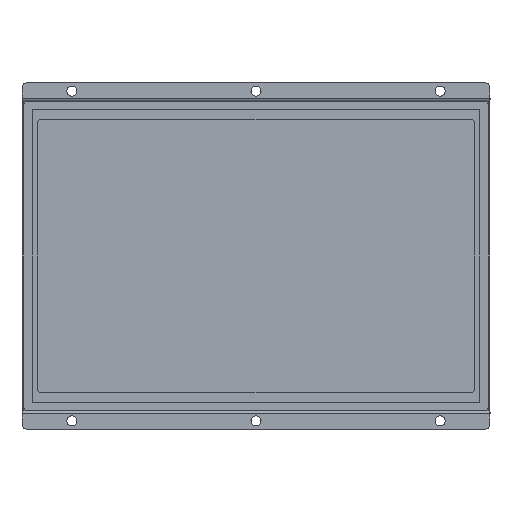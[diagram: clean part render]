
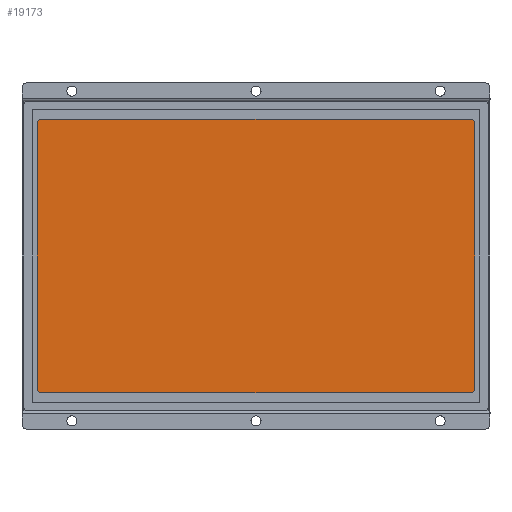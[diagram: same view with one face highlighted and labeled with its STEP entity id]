
A CAD part, front view. The second image highlights one B-rep face of the part: STEP entity #19173.
In plain terms, the highlighted planar face has unit normal (0, -1, 0).
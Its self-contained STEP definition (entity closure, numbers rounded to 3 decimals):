
#734=PLANE('',#20311);
#1480=FACE_OUTER_BOUND('',#2568,.T.);
#2568=EDGE_LOOP('',(#13077,#13078,#13079,#13080,#13081,#13082,#13083,#13084));
#3821=LINE('',#27412,#5735);
#3822=LINE('',#27416,#5736);
#3823=LINE('',#27420,#5737);
#3824=LINE('',#27423,#5738);
#5735=VECTOR('',#22099,10.);
#5736=VECTOR('',#22102,10.);
#5737=VECTOR('',#22105,10.);
#5738=VECTOR('',#22108,10.);
#7493=CIRCLE('',#20289,2.);
#7494=CIRCLE('',#20290,2.);
#7495=CIRCLE('',#20291,2.);
#7496=CIRCLE('',#20292,2.);
#8131=VERTEX_POINT('',#27408);
#8132=VERTEX_POINT('',#27409);
#8133=VERTEX_POINT('',#27411);
#8134=VERTEX_POINT('',#27413);
#8135=VERTEX_POINT('',#27415);
#8136=VERTEX_POINT('',#27417);
#8137=VERTEX_POINT('',#27419);
#8138=VERTEX_POINT('',#27421);
#10003=EDGE_CURVE('',#8131,#8132,#7493,.T.);
#10004=EDGE_CURVE('',#8133,#8131,#3821,.T.);
#10005=EDGE_CURVE('',#8134,#8133,#7494,.T.);
#10006=EDGE_CURVE('',#8135,#8134,#3822,.T.);
#10007=EDGE_CURVE('',#8136,#8135,#7495,.T.);
#10008=EDGE_CURVE('',#8137,#8136,#3823,.T.);
#10009=EDGE_CURVE('',#8138,#8137,#7496,.T.);
#10010=EDGE_CURVE('',#8132,#8138,#3824,.T.);
#13077=ORIENTED_EDGE('',*,*,#10003,.T.);
#13078=ORIENTED_EDGE('',*,*,#10010,.T.);
#13079=ORIENTED_EDGE('',*,*,#10009,.T.);
#13080=ORIENTED_EDGE('',*,*,#10008,.T.);
#13081=ORIENTED_EDGE('',*,*,#10007,.T.);
#13082=ORIENTED_EDGE('',*,*,#10006,.T.);
#13083=ORIENTED_EDGE('',*,*,#10005,.T.);
#13084=ORIENTED_EDGE('',*,*,#10004,.T.);
#19173=ADVANCED_FACE('',(#1480),#734,.T.);
#20289=AXIS2_PLACEMENT_3D('',#27410,#22097,#22098);
#20290=AXIS2_PLACEMENT_3D('',#27414,#22100,#22101);
#20291=AXIS2_PLACEMENT_3D('',#27418,#22103,#22104);
#20292=AXIS2_PLACEMENT_3D('',#27422,#22106,#22107);
#20311=AXIS2_PLACEMENT_3D('',#27474,#22165,#22166);
#22097=DIRECTION('center_axis',(0.,-1.,0.));
#22098=DIRECTION('ref_axis',(1.,0.,0.));
#22099=DIRECTION('',(0.,0.,-1.));
#22100=DIRECTION('center_axis',(0.,-1.,0.));
#22101=DIRECTION('ref_axis',(0.,0.,
-1.));
#22102=DIRECTION('',(-1.,0.,0.));
#22103=DIRECTION('center_axis',(0.,-1.,0.));
#22104=DIRECTION('ref_axis',(-1.,0.,0.));
#22105=DIRECTION('',(0.,0.,1.));
#22106=DIRECTION('center_axis',(0.,-1.,0.));
#22107=DIRECTION('ref_axis',(0.,0.,
1.));
#22108=DIRECTION('',(1.,0.,0.));
#22165=DIRECTION('center_axis',(0.,-1.,0.));
#22166=DIRECTION('ref_axis',(-1.,0.,0.));
#27408=CARTESIAN_POINT('',(-130.56,0.,-79.6));
#27409=CARTESIAN_POINT('',(-128.56,0.,-81.6));
#27410=CARTESIAN_POINT('Origin',(-128.56,0.,-79.6));
#27411=CARTESIAN_POINT('',(-130.56,0.,79.6));
#27412=CARTESIAN_POINT('',(-130.56,0.,39.8));
#27413=CARTESIAN_POINT('',(-128.56,0.,81.6));
#27414=CARTESIAN_POINT('Origin',(-128.56,0.,79.6));
#27415=CARTESIAN_POINT('',(128.56,0.,81.6));
#27416=CARTESIAN_POINT('',(64.28,0.,81.6));
#27417=CARTESIAN_POINT('',(130.56,0.,79.6));
#27418=CARTESIAN_POINT('Origin',(128.56,0.,79.6));
#27419=CARTESIAN_POINT('',(130.56,0.,-79.6));
#27420=CARTESIAN_POINT('',(130.56,0.,-39.8));
#27421=CARTESIAN_POINT('',(128.56,0.,-81.6));
#27422=CARTESIAN_POINT('Origin',(128.56,0.,-79.6));
#27423=CARTESIAN_POINT('',(-64.28,0.,-81.6));
#27474=CARTESIAN_POINT('Origin',(0.,0.,
0.));
